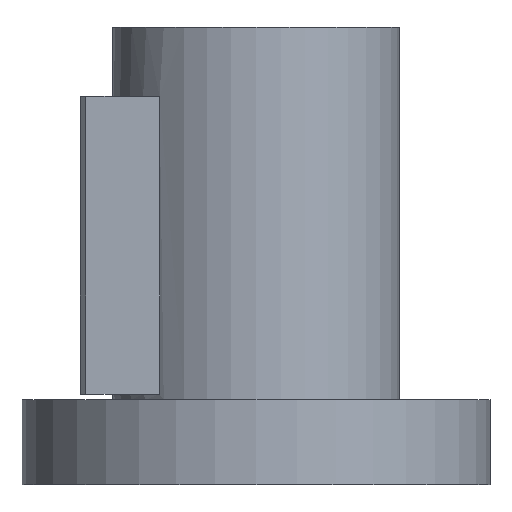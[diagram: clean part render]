
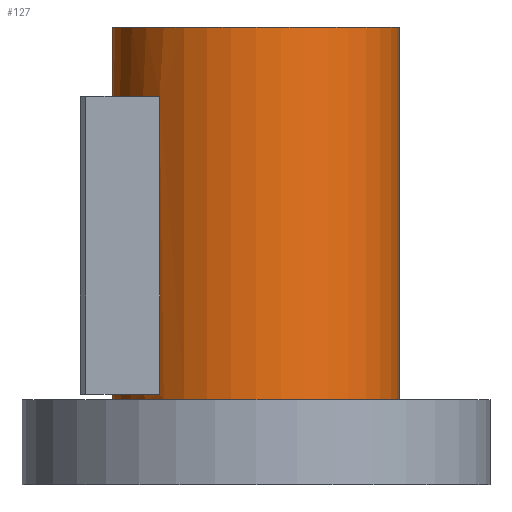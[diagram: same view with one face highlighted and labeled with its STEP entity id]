
A CAD part, front view. The second image highlights one B-rep face of the part: STEP entity #127.
In plain terms, the highlighted cylindrical face has radius 27 mm (diameter 54 mm), a full revolution.
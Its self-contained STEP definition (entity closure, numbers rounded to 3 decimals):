
#127=ADVANCED_FACE('',(#200,#201,#202),#155,.T.);
#155=CYLINDRICAL_SURFACE('',#508,27.);
#168=LINE('',#698,#184);
#169=LINE('',#702,#185);
#184=VECTOR('',#568,1.);
#185=VECTOR('',#571,1.);
#200=FACE_BOUND('',#245,.T.);
#201=FACE_BOUND('',#246,.T.);
#202=FACE_BOUND('',#247,.T.);
#245=EDGE_LOOP('',(#305));
#246=EDGE_LOOP('',(#306));
#247=EDGE_LOOP('',(#307,#308,#309,#310));
#305=ORIENTED_EDGE('',*,*,#431,.F.);
#306=ORIENTED_EDGE('',*,*,#432,.T.);
#307=ORIENTED_EDGE('',*,*,#433,.F.);
#308=ORIENTED_EDGE('',*,*,#434,.F.);
#309=ORIENTED_EDGE('',*,*,#435,.T.);
#310=ORIENTED_EDGE('',*,*,#436,.F.);
#393=VERTEX_POINT('',#692);
#394=VERTEX_POINT('',#694);
#395=VERTEX_POINT('',#696);
#396=VERTEX_POINT('',#697);
#397=VERTEX_POINT('',#699);
#398=VERTEX_POINT('',#701);
#431=EDGE_CURVE('',#393,#393,#475,.T.);
#432=EDGE_CURVE('',#394,#394,#476,.T.);
#433=EDGE_CURVE('',#395,#396,#477,.T.);
#434=EDGE_CURVE('',#397,#395,#168,.T.);
#435=EDGE_CURVE('',#397,#398,#478,.T.);
#436=EDGE_CURVE('',#396,#398,#169,.T.);
#475=CIRCLE('',#504,27.);
#476=CIRCLE('',#505,27.);
#477=CIRCLE('',#506,27.);
#478=CIRCLE('',#507,27.);
#504=AXIS2_PLACEMENT_3D('',#691,#562,#563);
#505=AXIS2_PLACEMENT_3D('',#693,#564,#565);
#506=AXIS2_PLACEMENT_3D('',#695,#566,#567);
#507=AXIS2_PLACEMENT_3D('',#700,#569,#570);
#508=AXIS2_PLACEMENT_3D('',#703,#572,#573);
#562=DIRECTION('',(0.,0.,1.));
#563=DIRECTION('',(1.,0.,0.));
#564=DIRECTION('',(0.,0.,1.));
#565=DIRECTION('',(1.,0.,0.));
#566=DIRECTION('',(0.,0.,-1.));
#567=DIRECTION('',(-1.,0.,0.));
#568=DIRECTION('',(0.,0.,1.));
#569=DIRECTION('',(0.,0.,-1.));
#570=DIRECTION('',(-1.,0.,0.));
#571=DIRECTION('',(0.,0.,-1.));
#572=DIRECTION('',(0.,0.,-1.));
#573=DIRECTION('',(-1.,0.,0.));
#691=CARTESIAN_POINT('',(0.,0.,86.));
#692=CARTESIAN_POINT('',(27.,0.,86.));
#693=CARTESIAN_POINT('',(0.,0.,16.));
#694=CARTESIAN_POINT('',(27.,0.,16.));
#695=CARTESIAN_POINT('',(0.,0.,73.));
#696=CARTESIAN_POINT('',(-18.138,-20.,73.));
#697=CARTESIAN_POINT('',(-18.138,20.,73.));
#698=CARTESIAN_POINT('',(-18.138,-20.,86.));
#699=CARTESIAN_POINT('',(-18.138,-20.,17.));
#700=CARTESIAN_POINT('',(0.,0.,17.));
#701=CARTESIAN_POINT('',(-18.138,20.,17.));
#702=CARTESIAN_POINT('',(-18.138,20.,86.));
#703=CARTESIAN_POINT('',(0.,0.,86.));
